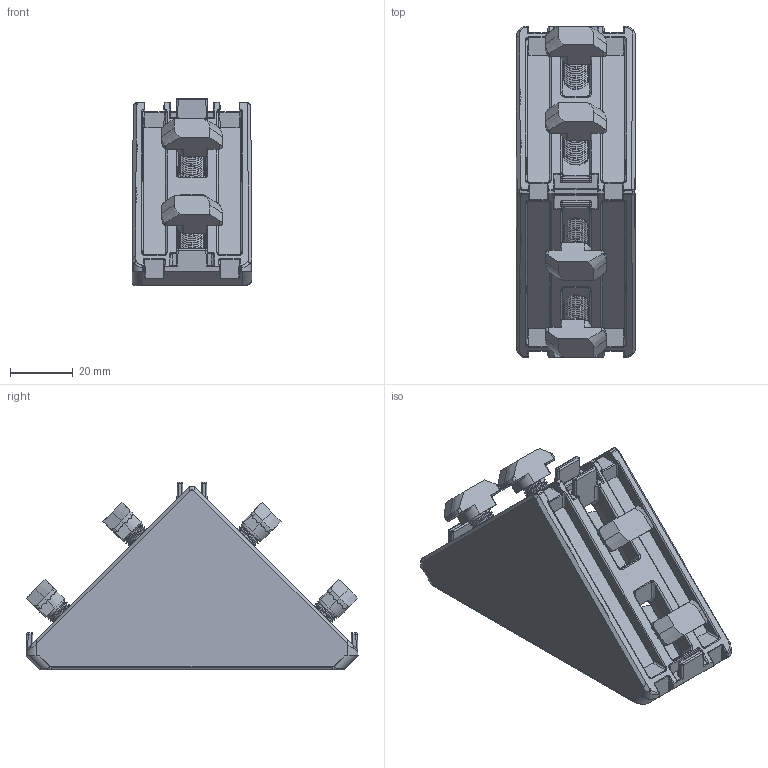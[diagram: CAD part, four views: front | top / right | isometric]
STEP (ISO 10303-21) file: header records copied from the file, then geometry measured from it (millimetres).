
FILE_DESCRIPTION (( 'STEP AP203' ), '1' );
FILE_NAME ('32108501_Winkel 40x80 Nut 10 mit Bef.-Satz.step', '2023-06-28T08:09:15', ( '' ), ( '' ), 'SwSTEP 2.0', 'SolidWorks 2021', '' );
FILE_SCHEMA (( 'CONFIG_CONTROL_DESIGN' ));
Length unit declared in the file: millimetre
Products named in the file (4): 32108501_Winkel 40x80 Nut 10 mit Bef.-Satz; 32108500 Winkel 40x80 Nut 10; 999315 Hammerschraube M8x25; 999307 Bundmutter M8 Ø21
Assembly tree (9 placements, depth 2):
  32108501_Winkel 40x80 Nut 10 mit Bef.-Satz
    32108500 Winkel 40x80 Nut 10
    999307 Bundmutter M8 Ø21  x4
    999315 Hammerschraube M8x25  x4
Bounding box: 38.12 x 105.8 x 59.81 mm (x, y, z)
Volume: 57999.7 mm3; surface area: 31434.8 mm2
Topology: 9 solids, 9 shells, 1233 faces, 3297 edges, 2076 vertices
Faces by surface type: cylinder 582, plane 358, bspline 241, cone 28, sphere 24
Entity records: 33551 total; most frequent: CARTESIAN_POINT 17468, ORIENTED_EDGE 3890, DIRECTION 2435, EDGE_CURVE 1945, VERTEX_POINT 1188, AXIS2_PLACEMENT_3D 863, EDGE_LOOP 771, FACE_OUTER_BOUND 762
